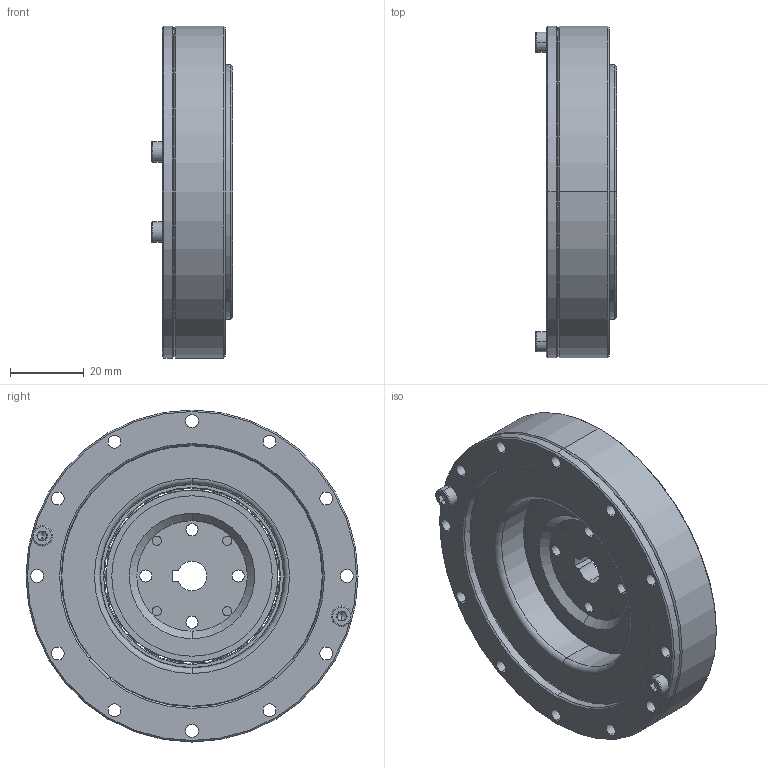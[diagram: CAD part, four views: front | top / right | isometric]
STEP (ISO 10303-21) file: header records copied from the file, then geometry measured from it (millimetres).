
FILE_DESCRIPTION (( 'STEP AP203' ), '1' );
FILE_NAME ('LHD-20-XXX-C-I.STEP', '2017-07-21T06:42:40', ( 'Windows 蚚誧' ), ( 'Users' ), 'SwSTEP 2.0', 'SolidWorks 2013', '' );
FILE_SCHEMA (( 'CONFIG_CONTROL_DESIGN' ));
Length unit declared in the file: millimetre
Products named in the file (12): LHD-20-XXX-C-I; LHD-20-XXX-P02; LHD-20-XXX-P04; YF-20-I; socket head cap screw_din_DIN 912 M3 x 6 --- 6C; countersunk flat head cross recess screw_din_ISO 7046-1 - M2.5 x 6 - Z --- 6C; RZC-20S内外圈+钢球; LHD-20-XXX-P03; RZC-20悵厥殤; DB-20-I; 柔性轴承RZC-20S; LHD-20-XXX-P01
Assembly tree (21 placements, depth 3):
  LHD-20-XXX-C-I
    LHD-20-XXX-P03
    DB-20-I
    LHD-20-XXX-P01
    LHD-20-XXX-P02
    LHD-20-XXX-P04
    YF-20-I
    socket head cap screw_din_DIN 912 M3 x 6 --- 6C  x8
    countersunk flat head cross recess screw_din_ISO 7046-1 - M2.5 x 6 - Z --- 6C  x4
    柔性轴承RZC-20S
      RZC-20S内外圈+钢球
      RZC-20悵厥殤
Bounding box: 22 x 90 x 90 mm (x, y, z)
Volume: 71489.6 mm3; surface area: 68255.9 mm2
Topology: 45 solids, 45 shells, 971 faces, 2360 edges, 1439 vertices
Faces by surface type: cylinder 372, plane 307, cone 174, torus 72, sphere 46
Entity records: 20869 total; most frequent: DIRECTION 3822, CARTESIAN_POINT 3213, ORIENTED_EDGE 3026, AXIS2_PLACEMENT_3D 1638, EDGE_CURVE 1513, VERTEX_POINT 977, CIRCLE 954, EDGE_LOOP 852
